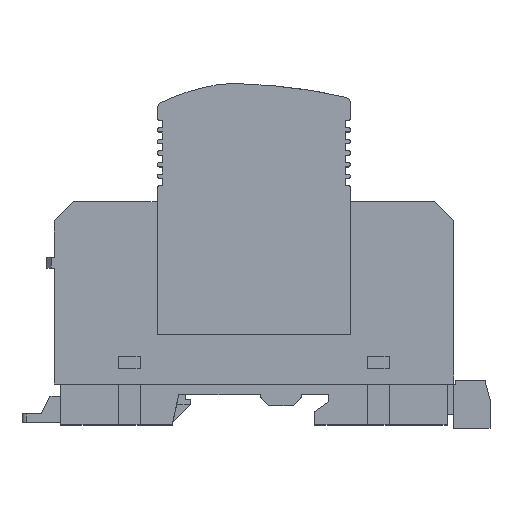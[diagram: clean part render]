
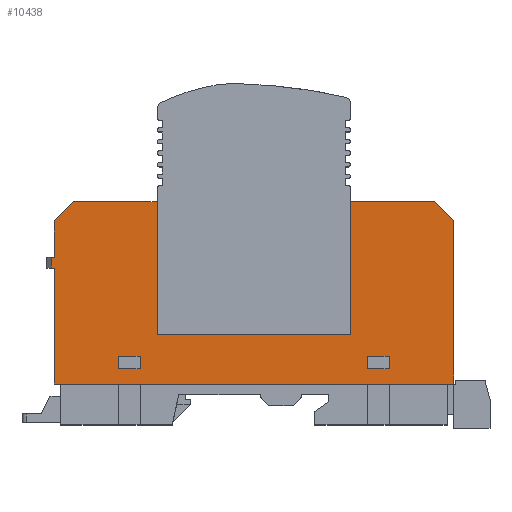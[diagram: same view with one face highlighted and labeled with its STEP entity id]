
A CAD part, top view. The second image highlights one B-rep face of the part: STEP entity #10438.
In plain terms, the highlighted planar face has unit normal (0, 0, 1).
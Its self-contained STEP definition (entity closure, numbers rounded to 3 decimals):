
#115=FACE_BOUND('',#996,.T.);
#116=FACE_BOUND('',#997,.T.);
#403=FACE_OUTER_BOUND('',#995,.T.);
#995=EDGE_LOOP('',(#7437,#7438,#7439,#7440,#7441,#7442,#7443,#7444,#7445,
#7446,#7447,#7448,#7449,#7450));
#996=EDGE_LOOP('',(#7451,#7452,#7453,#7454));
#997=EDGE_LOOP('',(#7455,#7456,#7457,#7458));
#1585=LINE('',#15028,#2824);
#1589=LINE('',#15036,#2828);
#1592=LINE('',#15042,#2831);
#1595=LINE('',#15047,#2834);
#1597=LINE('',#15053,#2836);
#1601=LINE('',#15061,#2840);
#1604=LINE('',#15067,#2843);
#1607=LINE('',#15072,#2846);
#1718=LINE('',#15296,#2957);
#1756=LINE('',#15373,#2995);
#1796=LINE('',#15454,#3035);
#1848=LINE('',#15569,#3087);
#1855=LINE('',#15587,#3094);
#1873=LINE('',#15630,#3112);
#1875=LINE('',#15635,#3114);
#1877=LINE('',#15638,#3116);
#1878=LINE('',#15639,#3117);
#1879=LINE('',#15640,#3118);
#1880=LINE('',#15642,#3119);
#1881=LINE('',#15644,#3120);
#1882=LINE('',#15645,#3121);
#1883=LINE('',#15646,#3122);
#2824=VECTOR('',#12098,10.);
#2828=VECTOR('',#12104,10.);
#2831=VECTOR('',#12109,10.);
#2834=VECTOR('',#12114,10.);
#2836=VECTOR('',#12120,10.);
#2840=VECTOR('',#12126,10.);
#2843=VECTOR('',#12131,10.);
#2846=VECTOR('',#12136,10.);
#2957=VECTOR('',#12319,10.);
#2995=VECTOR('',#12383,10.);
#3035=VECTOR('',#12449,10.);
#3087=VECTOR('',#12573,10.);
#3094=VECTOR('',#12588,10.);
#3112=VECTOR('',#12632,10.);
#3114=VECTOR('',#12636,10.);
#3116=VECTOR('',#12640,10.);
#3117=VECTOR('',#12641,10.);
#3118=VECTOR('',#12642,10.);
#3119=VECTOR('',#12643,10.);
#3120=VECTOR('',#12644,10.);
#3121=VECTOR('',#12645,10.);
#3122=VECTOR('',#12646,10.);
#4262=VERTEX_POINT('',#15026);
#4263=VERTEX_POINT('',#15027);
#4266=VERTEX_POINT('',#15035);
#4268=VERTEX_POINT('',#15041);
#4270=VERTEX_POINT('',#15051);
#4271=VERTEX_POINT('',#15052);
#4274=VERTEX_POINT('',#15060);
#4276=VERTEX_POINT('',#15066);
#4353=VERTEX_POINT('',#15293);
#4354=VERTEX_POINT('',#15295);
#4379=VERTEX_POINT('',#15370);
#4380=VERTEX_POINT('',#15372);
#4407=VERTEX_POINT('',#15451);
#4408=VERTEX_POINT('',#15453);
#4434=VERTEX_POINT('',#15566);
#4435=VERTEX_POINT('',#15568);
#4439=VERTEX_POINT('',#15580);
#4442=VERTEX_POINT('',#15585);
#4454=VERTEX_POINT('',#15628);
#4456=VERTEX_POINT('',#15633);
#4457=VERTEX_POINT('',#15641);
#4458=VERTEX_POINT('',#15643);
#5289=EDGE_CURVE('',#4262,#4263,#1585,.T.);
#5293=EDGE_CURVE('',#4263,#4266,#1589,.T.);
#5296=EDGE_CURVE('',#4266,#4268,#1592,.T.);
#5299=EDGE_CURVE('',#4268,#4262,#1595,.T.);
#5301=EDGE_CURVE('',#4270,#4271,#1597,.T.);
#5305=EDGE_CURVE('',#4271,#4274,#1601,.T.);
#5308=EDGE_CURVE('',#4274,#4276,#1604,.T.);
#5311=EDGE_CURVE('',#4276,#4270,#1607,.T.);
#5422=EDGE_CURVE('',#4354,#4353,#1718,.T.);
#5460=EDGE_CURVE('',#4380,#4379,#1756,.T.);
#5500=EDGE_CURVE('',#4408,#4407,#1796,.T.);
#5555=EDGE_CURVE('',#4435,#4434,#1848,.T.);
#5564=EDGE_CURVE('',#4439,#4442,#1855,.T.);
#5586=EDGE_CURVE('',#4353,#4454,#1873,.T.);
#5588=EDGE_CURVE('',#4456,#4454,#1875,.T.);
#5590=EDGE_CURVE('',#4456,#4380,#1877,.T.);
#5591=EDGE_CURVE('',#4379,#4408,#1878,.T.);
#5592=EDGE_CURVE('',#4407,#4435,#1879,.T.);
#5593=EDGE_CURVE('',#4434,#4457,#1880,.T.);
#5594=EDGE_CURVE('',#4457,#4458,#1881,.T.);
#5595=EDGE_CURVE('',#4458,#4439,#1882,.T.);
#5596=EDGE_CURVE('',#4442,#4354,#1883,.T.);
#7437=ORIENTED_EDGE('',*,*,#5588,.F.);
#7438=ORIENTED_EDGE('',*,*,#5590,.T.);
#7439=ORIENTED_EDGE('',*,*,#5460,.T.);
#7440=ORIENTED_EDGE('',*,*,#5591,.T.);
#7441=ORIENTED_EDGE('',*,*,#5500,.T.);
#7442=ORIENTED_EDGE('',*,*,#5592,.T.);
#7443=ORIENTED_EDGE('',*,*,#5555,.T.);
#7444=ORIENTED_EDGE('',*,*,#5593,.T.);
#7445=ORIENTED_EDGE('',*,*,#5594,.T.);
#7446=ORIENTED_EDGE('',*,*,#5595,.T.);
#7447=ORIENTED_EDGE('',*,*,#5564,.T.);
#7448=ORIENTED_EDGE('',*,*,#5596,.T.);
#7449=ORIENTED_EDGE('',*,*,#5422,.T.);
#7450=ORIENTED_EDGE('',*,*,#5586,.T.);
#7451=ORIENTED_EDGE('',*,*,#5289,.T.);
#7452=ORIENTED_EDGE('',*,*,#5293,.T.);
#7453=ORIENTED_EDGE('',*,*,#5296,.T.);
#7454=ORIENTED_EDGE('',*,*,#5299,.T.);
#7455=ORIENTED_EDGE('',*,*,#5301,.T.);
#7456=ORIENTED_EDGE('',*,*,#5305,.T.);
#7457=ORIENTED_EDGE('',*,*,#5308,.T.);
#7458=ORIENTED_EDGE('',*,*,#5311,.T.);
#9783=PLANE('',#11181);
#10438=ADVANCED_FACE('',(#403,#115,#116),#9783,.T.);
#11181=AXIS2_PLACEMENT_3D('',#15637,#12638,#12639);
#12098=DIRECTION('',(0.,-1.,0.));
#12104=DIRECTION('',(-1.,0.,0.));
#12109=DIRECTION('',(0.,1.,0.));
#12114=DIRECTION('',(1.,0.,0.));
#12120=DIRECTION('',(0.,-1.,0.));
#12126=DIRECTION('',(-1.,0.,0.));
#12131=DIRECTION('',(0.,1.,0.));
#12136=DIRECTION('',(1.,0.,0.));
#12319=DIRECTION('',(0.,-1.,0.));
#12383=DIRECTION('',(0.,-1.,0.));
#12449=DIRECTION('',(0.,1.,0.));
#12573=DIRECTION('',(-1.,0.,0.));
#12588=DIRECTION('',(-1.,0.,0.));
#12632=DIRECTION('',(-1.,0.,0.));
#12636=DIRECTION('',(0.,1.,0.));
#12638=DIRECTION('center_axis',(0.,0.,1.));
#12639=DIRECTION('ref_axis',(1.,0.,0.));
#12640=DIRECTION('',(1.,0.,0.));
#12641=DIRECTION('',(1.,0.,0.));
#12642=DIRECTION('',(-0.707,0.707,0.));
#12643=DIRECTION('',(0.,-1.,0.));
#12644=DIRECTION('',(-1.,0.,0.));
#12645=DIRECTION('',(0.,1.,0.));
#12646=DIRECTION('',(-0.707,-0.707,0.));
#15026=CARTESIAN_POINT('',(-26.5,-23.75,35.));
#15027=CARTESIAN_POINT('',(-26.5,-26.75,35.));
#15028=CARTESIAN_POINT('',(-26.5,-17.235,35.));
#15035=CARTESIAN_POINT('',(-31.5,-26.75,35.));
#15036=CARTESIAN_POINT('',(-15.81,-26.75,35.));
#15041=CARTESIAN_POINT('',(-31.5,-23.75,35.));
#15042=CARTESIAN_POINT('',(-31.5,-15.735,35.));
#15047=CARTESIAN_POINT('',(-13.31,-23.75,35.));
#15051=CARTESIAN_POINT('',(31.5,-23.75,35.));
#15052=CARTESIAN_POINT('',(31.5,-26.75,35.));
#15053=CARTESIAN_POINT('',(31.5,-17.235,35.));
#15060=CARTESIAN_POINT('',(26.5,-26.75,35.));
#15061=CARTESIAN_POINT('',(13.19,-26.75,35.));
#15066=CARTESIAN_POINT('',(26.5,-23.75,35.));
#15067=CARTESIAN_POINT('',(26.5,-15.735,35.));
#15072=CARTESIAN_POINT('',(15.69,-23.75,35.));
#15293=CARTESIAN_POINT('',(-46.5,-0.75,35.));
#15295=CARTESIAN_POINT('',(-46.5,7.75,35.));
#15296=CARTESIAN_POINT('',(-46.5,7.75,35.));
#15370=CARTESIAN_POINT('',(-46.5,-30.25,35.));
#15372=CARTESIAN_POINT('',(-46.5,-3.25,35.));
#15373=CARTESIAN_POINT('',(-46.5,-3.25,35.));
#15451=CARTESIAN_POINT('',(46.5,7.75,35.));
#15453=CARTESIAN_POINT('',(46.5,-30.25,35.));
#15454=CARTESIAN_POINT('',(46.5,-30.25,35.));
#15566=CARTESIAN_POINT('',(22.55,12.25,35.));
#15568=CARTESIAN_POINT('',(42.,12.25,35.));
#15569=CARTESIAN_POINT('',(42.,12.25,35.));
#15580=CARTESIAN_POINT('',(-22.55,12.25,35.));
#15585=CARTESIAN_POINT('',(-42.,12.25,35.));
#15587=CARTESIAN_POINT('',(-22.5,12.25,35.));
#15628=CARTESIAN_POINT('',(-47.2,-0.75,35.));
#15630=CARTESIAN_POINT('',(-46.5,-0.75,35.));
#15633=CARTESIAN_POINT('',(-47.2,-3.25,35.));
#15635=CARTESIAN_POINT('',(-47.2,-4.235,35.));
#15637=CARTESIAN_POINT('Origin',(-0.121,-7.72,35.));
#15638=CARTESIAN_POINT('',(-48.2,-3.25,35.));
#15639=CARTESIAN_POINT('',(-46.5,-30.25,35.));
#15640=CARTESIAN_POINT('',(46.5,7.75,35.));
#15641=CARTESIAN_POINT('',(22.55,-18.75,35.));
#15642=CARTESIAN_POINT('',(22.55,2.265,35.));
#15643=CARTESIAN_POINT('',(-22.55,-18.75,35.));
#15644=CARTESIAN_POINT('',(11.215,-18.75,35.));
#15645=CARTESIAN_POINT('',(-22.55,-13.235,35.));
#15646=CARTESIAN_POINT('',(-42.,12.25,35.));
